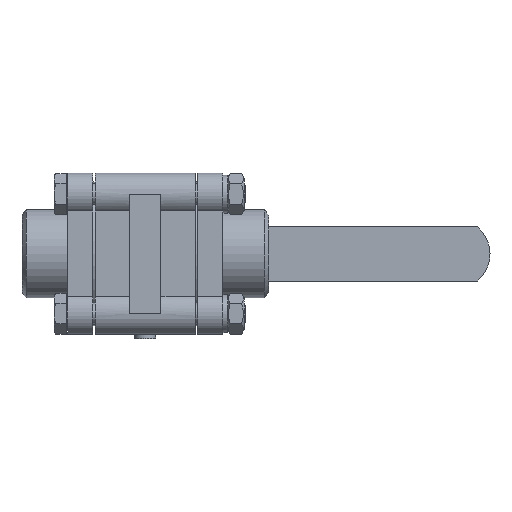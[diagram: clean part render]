
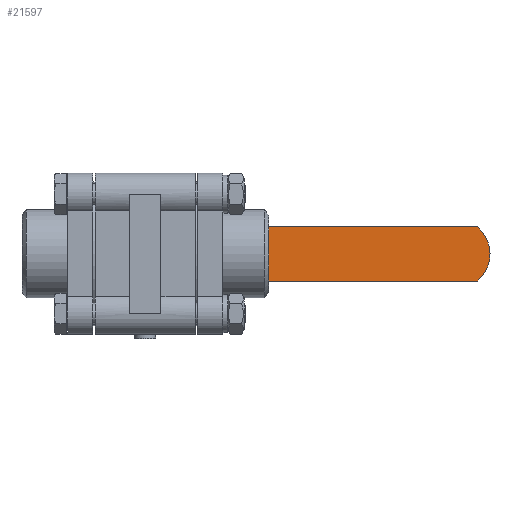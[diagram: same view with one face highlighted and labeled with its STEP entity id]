
A CAD part, front view. The second image highlights one B-rep face of the part: STEP entity #21597.
In plain terms, the highlighted planar face has unit normal (0, -1, 0).
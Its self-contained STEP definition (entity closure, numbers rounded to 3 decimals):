
#1170=PLANE('',#22929);
#3066=FACE_OUTER_BOUND('',#4258,.T.);
#4258=EDGE_LOOP('',(#15793,#15794,#15795,#15796));
#5547=CIRCLE('',#22927,17.);
#6429=LINE('',#30626,#8259);
#6431=LINE('',#30630,#8261);
#6432=LINE('',#30631,#8262);
#8259=VECTOR('',#25227,10.);
#8261=VECTOR('',#25231,10.);
#8262=VECTOR('',#25232,10.);
#10127=VERTEX_POINT('',#30619);
#10128=VERTEX_POINT('',#30620);
#10129=VERTEX_POINT('',#30625);
#10130=VERTEX_POINT('',#30629);
#12311=EDGE_CURVE('',#10127,#10128,#5547,.T.);
#12314=EDGE_CURVE('',#10129,#10127,#6429,.T.);
#12316=EDGE_CURVE('',#10130,#10128,#6431,.T.);
#12317=EDGE_CURVE('',#10129,#10130,#6432,.T.);
#15793=ORIENTED_EDGE('',*,*,#12311,.T.);
#15794=ORIENTED_EDGE('',*,*,#12316,.F.);
#15795=ORIENTED_EDGE('',*,*,#12317,.F.);
#15796=ORIENTED_EDGE('',*,*,#12314,.T.);
#21597=ADVANCED_FACE('',(#3066),#1170,.T.);
#22927=AXIS2_PLACEMENT_3D('',#30621,#25221,#25222);
#22929=AXIS2_PLACEMENT_3D('',#30628,#25229,#25230);
#25221=DIRECTION('center_axis',(0.,-1.,0.));
#25222=DIRECTION('ref_axis',(0.644,0.,0.765));
#25227=DIRECTION('',(1.,0.,0.));
#25229=DIRECTION('center_axis',(0.,-1.,0.));
#25230=DIRECTION('ref_axis',(0.,0.,
-1.));
#25231=DIRECTION('',(1.,0.,0.));
#25232=DIRECTION('',(0.,0.,1.));
#30619=CARTESIAN_POINT('',(116.442,207.342,-12.));
#30620=CARTESIAN_POINT('',(116.442,207.342,14.));
#30621=CARTESIAN_POINT('Origin',(105.487,207.342,1.));
#30625=CARTESIAN_POINT('',(12.487,207.342,-12.));
#30626=CARTESIAN_POINT('',(12.487,207.342,-12.));
#30628=CARTESIAN_POINT('Origin',(12.487,207.342,14.));
#30629=CARTESIAN_POINT('',(12.487,207.342,14.));
#30630=CARTESIAN_POINT('',(12.487,207.342,14.));
#30631=CARTESIAN_POINT('',(12.487,207.342,-12.));
